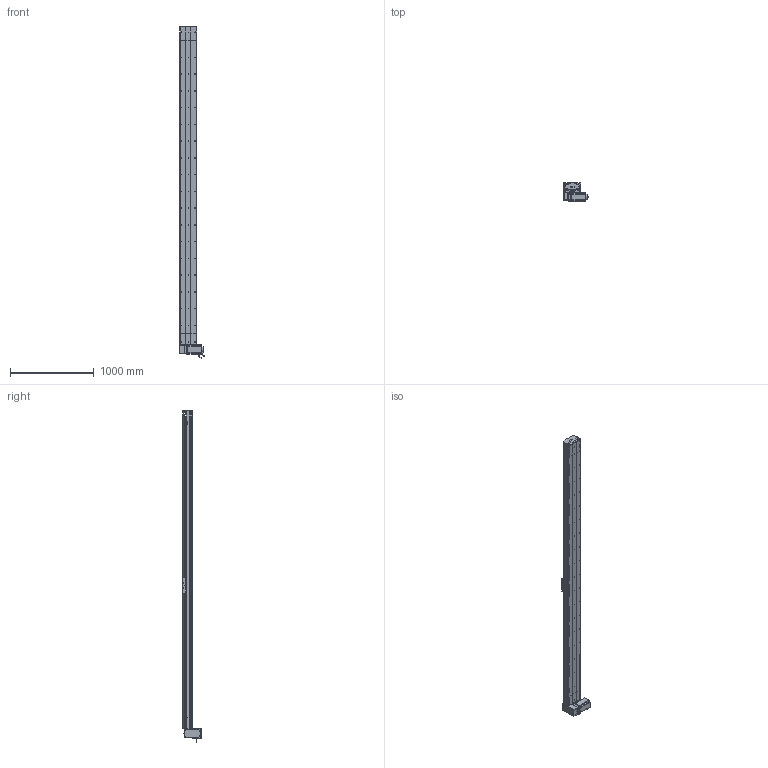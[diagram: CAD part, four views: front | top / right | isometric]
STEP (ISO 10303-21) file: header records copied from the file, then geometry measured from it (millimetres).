
FILE_DESCRIPTION (( 'STEP AP214' ), '1' );
FILE_NAME ('D20 TBH RU S3500.STEP', '2010-07-01T09:00:33', ( 'Conseil Régional Haute-Normandie' ), ( 'Conseil Régional Haute-Normandie' ), 'SwSTEP 2.0', 'SolidWorks 2010', '' );
FILE_SCHEMA (( 'AUTOMOTIVE_DESIGN' ));
Length unit declared in the file: millimetre
Products named in the file (40): cache arbre D20_Default; Conecteur2_Default; cache D20_Default; codeur 110BLDC170A-630x; corps 110BLDC170A-630x; avant 110BLDC170A-630x; Moteur motionking 110BLDC170A-640x; vis M5 L70_Default; Plaque racord D20LH_Default; Renvoi RU D20_Default; vis M5 L5_Default; couroie_Default; Conecteur_Default; rail tail D20; vis M5 L8 90°_Default; vis M5 L25_Default; vis M5 L12_Default; tete d''axe poulie D20B; couvercle tail D20_Default; Couroie tail D20_Default; plaque de  bout tail D20_Default; poulie tail D20_Default; clavette; corpl tail D20 +100_Default; tail D20+100_Default; vis M8 L12_Default; Course B L3500_Default; D20 TBH RU S3500; rail + couroie  D20 S3500; couvercle D20 S3500_Default; corp D20 S3500_Default; guide D20B; Chariot D20B; chariot D20B_Default; rail head D20; corpl head D20_Default; head RU_Default; plaque de  bout head D20B RU_Default; poulie head D20_Default; couvercle head D20_Default
Assembly tree (71 placements, depth 4):
  D20 TBH RU S3500
    chariot D20B_Default
      vis M5 L12_Default  x4
      guide D20B  x2
      Chariot D20B
    Course B L3500_Default
      corp D20 S3500_Default
      couvercle D20 S3500_Default
      rail + couroie  D20 S3500
    head RU_Default
      vis M5 L5_Default  x4
      cache arbre D20_Default
      vis M5 L70_Default  x4
      vis M8 L12_Default  x4
      vis M5 L12_Default  x10
      Plaque racord D20LH_Default
      couroie_Default
      plaque de  bout head D20B RU_Default
      rail head D20
      poulie head D20_Default
      vis M5 L25_Default  x2
      Renvoi RU D20_Default
      cache D20_Default  x2
      couvercle head D20_Default
      corpl head D20_Default
      Moteur motionking 110BLDC170A-640x
        Conecteur2_Default
        Conecteur_Default
        corps 110BLDC170A-630x
        avant 110BLDC170A-630x
        clavette
        codeur 110BLDC170A-630x
    tail D20+100_Default
      vis M5 L12_Default  x4
      corpl tail D20 +100_Default
      poulie tail D20_Default
      rail tail D20
      plaque de  bout tail D20_Default
      tete d''axe poulie D20B
      couvercle tail D20_Default
      vis M5 L8 90°_Default  x2
      Couroie tail D20_Default
      vis M5 L25_Default  x2
Bounding box: 304.2 x 223.2 x 3965 mm (x, y, z)
Volume: 30494012.5 mm3; surface area: 7578966.1 mm2
Topology: 95 solids, 95 shells, 2918 faces, 7566 edges, 4895 vertices
Faces by surface type: plane 1657, cylinder 937, bspline 136, cone 99, torus 89
Entity records: 95711 total; most frequent: CARTESIAN_POINT 31347, ORIENTED_EDGE 11788, DIRECTION 11027, EDGE_CURVE 5894, VERTEX_POINT 3881, VECTOR 3689, LINE 3689, AXIS2_PLACEMENT_3D 3669
